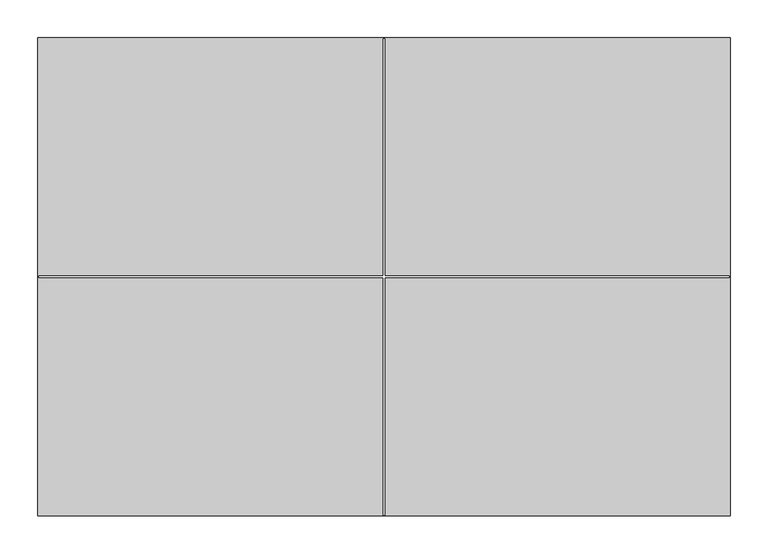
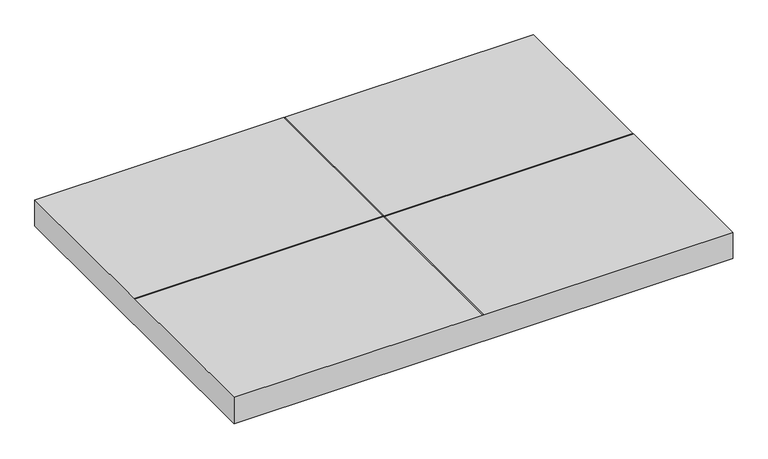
"""IFC4 building model written with IfcOpenShell, lengths in millimetres: furniture geometry, Steelcase - Universal Storage - Cushion Top - for Lateral File : Proud Steel Front - 24 7/8D x 36W."""

from ifc_helpers import new_model, si_unit, frame, origin, place, context, project, spatial, polyline, outline, extrude, source, transform, mapped, element, save


def furniture_a6f165e0(model_context):
    return source(origin(), model_context, "Body", "SweptSolid", [
        extrude(outline(polyline([(914.4, 0.0), (914.4, -631.952), (0.0, -631.952), (0.0, 0.0), (914.4, 0.0)]), holes=[polyline([(0.889, -315.087), (0.889, -316.865), (456.311, -316.865), (456.311, -631.0630015), (458.089, -631.0630015), (458.089, -316.865), (913.5109651, -316.865), (913.5109651, -315.087), (458.089, -315.087), (458.089, -0.889), (456.311, -0.889), (456.311, -315.087), (0.889, -315.087)])]), frame((0.0, 0.0, 533.4), z_axis=(0.0, 0.0, 1.0), x_axis=(1.0, 0.0, 0.0)), (0.0, 0.0, 1.0), 50.7999971),
    ])


if __name__ == "__main__":
    model = new_model("IFC4")
    model_context = context("Model", 3, world=origin())
    ifc_project = project(units=[si_unit("LENGTHUNIT", "METRE", prefix="MILLI")], contexts=[model_context])
    site = spatial("IfcSite", under=ifc_project)
    building = spatial("IfcBuilding", under=site)
    placement = place(None, origin())
    furniture_shape = furniture_a6f165e0(model_context)
    element("IfcFurniture", 1, ObjectType="Steelcase - Universal Storage - Cushion Top - for Lateral File : Proud Steel Front - 24 7/8D x 36W", at=placement, inside=building, context=model_context, shape_type="MappedRepresentation", body=[
        mapped(furniture_shape, transform((0.0, 0.0, 0.0), x_axis=(1.0, 0.0, 0.0), y_axis=(0.0, 1.0, 0.0), z_axis=(0.0, 0.0, 1.0))),
    ])
    save(model, "model.ifc")
